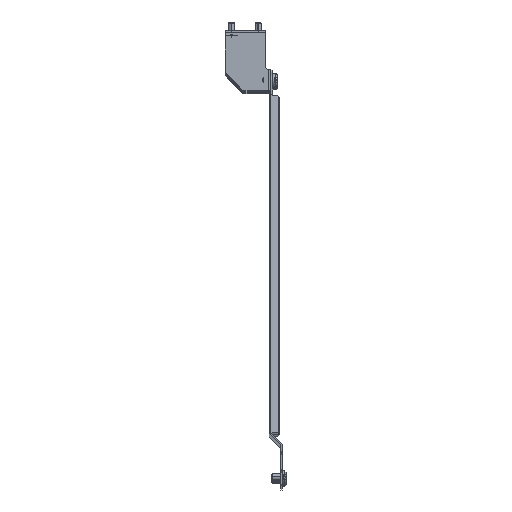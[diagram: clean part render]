
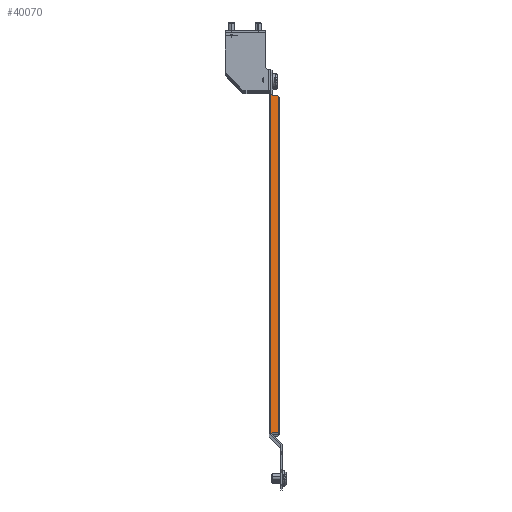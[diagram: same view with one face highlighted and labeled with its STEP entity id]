
A CAD part, top view. The second image highlights one B-rep face of the part: STEP entity #40070.
In plain terms, the highlighted planar face has unit normal (0.5, 0, 0.866).
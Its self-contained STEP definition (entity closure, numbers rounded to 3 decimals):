
#799 = VERTEX_POINT ( 'NONE', #1770 ) ;
#975 = DIRECTION ( 'NONE',  ( -0.866, 0., 0.5 ) ) ;
#991 = CARTESIAN_POINT ( 'NONE',  ( 22.688, -5.587, 495.34 ) ) ;
#1770 = CARTESIAN_POINT ( 'NONE',  ( 20.956, 152.877, 496.34 ) ) ;
#3813 = VECTOR ( 'NONE', #27584, 1000. ) ;
#4995 = LINE ( 'NONE', #11793, #21176 ) ;
#5300 = VECTOR ( 'NONE', #36050, 1000. ) ;
#5466 = LINE ( 'NONE', #12472, #5300 ) ;
#6894 = EDGE_LOOP ( 'NONE', ( #37143, #28012, #15364, #38226, #16553, #41984, #17149, #15714 ) ) ;
#8102 = DIRECTION ( 'NONE',  ( 0.612, 0.707, -0.354 ) ) ;
#9007 = VECTOR ( 'NONE', #975, 1000. ) ;
#10278 = DIRECTION ( 'NONE',  ( -0.5, 0., -0.866 ) ) ;
#10304 = VERTEX_POINT ( 'NONE', #37800 ) ;
#10307 = LINE ( 'NONE', #23490, #17111 ) ;
#10326 = CARTESIAN_POINT ( 'NONE',  ( 228.211, 152.877, 376.682 ) ) ;
#10640 = CARTESIAN_POINT ( 'NONE',  ( 228.211, -164.052, 376.682 ) ) ;
#10909 = CARTESIAN_POINT ( 'NONE',  ( 16.711, 152.877, 498.791 ) ) ;
#11267 = DIRECTION ( 'NONE',  ( 0., -1., 0. ) ) ;
#11499 = LINE ( 'NONE', #28404, #38065 ) ;
#11793 = CARTESIAN_POINT ( 'NONE',  ( 22.688, -162.052, 495.34 ) ) ;
#12216 = VECTOR ( 'NONE', #33438, 1000. ) ;
#12472 = CARTESIAN_POINT ( 'NONE',  ( 228.211, -164.052, 376.682 ) ) ;
#12922 = CARTESIAN_POINT ( 'NONE',  ( 228.211, -5.587, 376.682 ) ) ;
#13619 = VERTEX_POINT ( 'NONE', #40102 ) ;
#13728 = CARTESIAN_POINT ( 'NONE',  ( 14.229, -164.052, 500.224 ) ) ;
#14959 = EDGE_CURVE ( 'NONE', #30072, #27601, #31078, .T. ) ;
#15364 = ORIENTED_EDGE ( 'NONE', *, *, #14959, .F. ) ;
#15714 = ORIENTED_EDGE ( 'NONE', *, *, #33591, .T. ) ;
#16553 = ORIENTED_EDGE ( 'NONE', *, *, #20503, .T. ) ;
#16645 = PLANE ( 'NONE',  #42177 ) ;
#17111 = VECTOR ( 'NONE', #39781, 1000. ) ;
#17149 = ORIENTED_EDGE ( 'NONE', *, *, #24104, .T. ) ;
#20503 = EDGE_CURVE ( 'NONE', #13619, #30148, #4995, .T. ) ;
#21176 = VECTOR ( 'NONE', #8102, 1000. ) ;
#22215 = VERTEX_POINT ( 'NONE', #24231 ) ;
#22272 = EDGE_CURVE ( 'NONE', #34952, #27601, #11499, .T. ) ;
#22816 = CARTESIAN_POINT ( 'NONE',  ( 16.711, -164.052, 498.791 ) ) ;
#23210 = VECTOR ( 'NONE', #38356, 1000. ) ;
#23490 = CARTESIAN_POINT ( 'NONE',  ( 20.956, 152.877, 496.34 ) ) ;
#23661 = DIRECTION ( 'NONE',  ( -0.866, 0., 0.5 ) ) ;
#23887 = CARTESIAN_POINT ( 'NONE',  ( 22.688, -162.052, 495.34 ) ) ;
#24104 = EDGE_CURVE ( 'NONE', #22215, #799, #10307, .T. ) ;
#24231 = CARTESIAN_POINT ( 'NONE',  ( 22.688, 150.877, 495.34 ) ) ;
#24618 = EDGE_CURVE ( 'NONE', #10304, #34952, #37949, .T. ) ;
#27015 = LINE ( 'NONE', #10326, #12216 ) ;
#27584 = DIRECTION ( 'NONE',  ( -0.866, 0., 0.5 ) ) ;
#27601 = VERTEX_POINT ( 'NONE', #13728 ) ;
#27749 = EDGE_CURVE ( 'NONE', #30148, #22215, #37509, .T. ) ;
#28012 = ORIENTED_EDGE ( 'NONE', *, *, #22272, .T. ) ;
#28404 = CARTESIAN_POINT ( 'NONE',  ( 14.229, -164.052, 500.224 ) ) ;
#30072 = VERTEX_POINT ( 'NONE', #22816 ) ;
#30148 = VERTEX_POINT ( 'NONE', #23887 ) ;
#31078 = LINE ( 'NONE', #10640, #9007 ) ;
#33438 = DIRECTION ( 'NONE',  ( -0.866, 0., 0.5 ) ) ;
#33591 = EDGE_CURVE ( 'NONE', #799, #10304, #27015, .T. ) ;
#34879 = EDGE_CURVE ( 'NONE', #30072, #13619, #5466, .T. ) ;
#34952 = VERTEX_POINT ( 'NONE', #42832 ) ;
#36050 = DIRECTION ( 'NONE',  ( 0.866, 0., -0.5 ) ) ;
#37143 = ORIENTED_EDGE ( 'NONE', *, *, #24618, .T. ) ;
#37509 = LINE ( 'NONE', #991, #23210 ) ;
#37800 = CARTESIAN_POINT ( 'NONE',  ( 16.711, 152.877, 498.791 ) ) ;
#37949 = LINE ( 'NONE', #10909, #3813 ) ;
#38065 = VECTOR ( 'NONE', #11267, 1000. ) ;
#38226 = ORIENTED_EDGE ( 'NONE', *, *, #34879, .T. ) ;
#38356 = DIRECTION ( 'NONE',  ( 0., 1., 0. ) ) ;
#39781 = DIRECTION ( 'NONE',  ( -0.612, 0.707, 0.354 ) ) ;
#40070 = ADVANCED_FACE ( 'NONE', ( #40612 ), #16645, .F. ) ;
#40102 = CARTESIAN_POINT ( 'NONE',  ( 20.956, -164.052, 496.34 ) ) ;
#40612 = FACE_OUTER_BOUND ( 'NONE', #6894, .T. ) ;
#41984 = ORIENTED_EDGE ( 'NONE', *, *, #27749, .T. ) ;
#42177 = AXIS2_PLACEMENT_3D ( 'NONE', #12922, #10278, #23661 ) ;
#42832 = CARTESIAN_POINT ( 'NONE',  ( 14.229, 152.877, 500.224 ) ) ;
